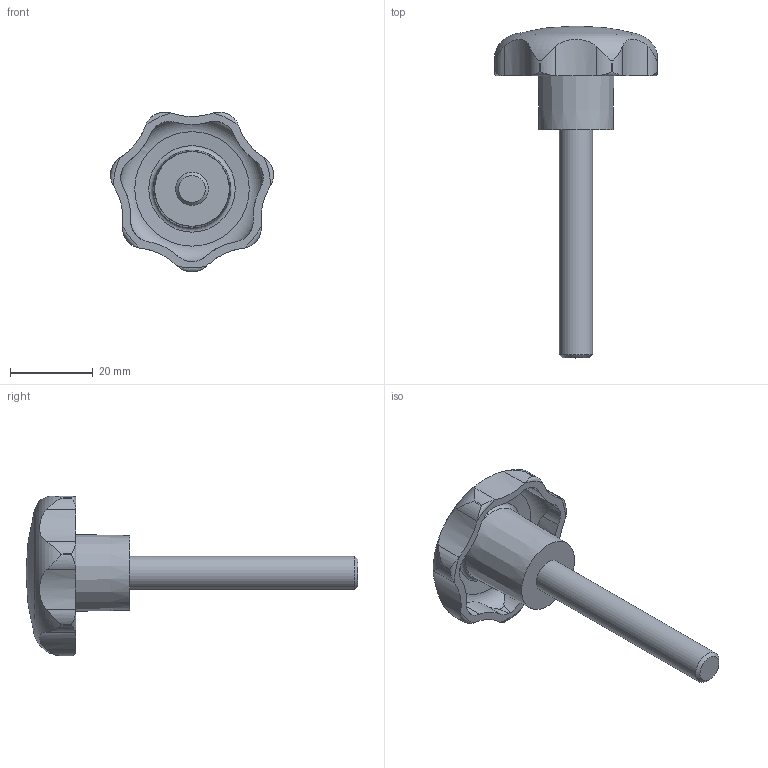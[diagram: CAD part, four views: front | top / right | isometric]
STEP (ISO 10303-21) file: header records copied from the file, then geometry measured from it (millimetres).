
FILE_DESCRIPTION( ( 'STEP AP203' ), '1' );
FILE_NAME( 'C:/Temp/Ganter_Step_05_03_2020/data/2_2/gn_6336_4/gn_6336_4_st/Star knob GN 6336.4-ST-40-M8-55.stp', '2020-03-05T12:07:31', ( 'License CC BY-ND 4.0' ), ( 'CADENAS' ), ' ', 'PARTsolutions', ' ' );
FILE_SCHEMA( ( 'CONFIG_CONTROL_DESIGN' ) );
Length unit declared in the file: millimetre
Products named in the file (1): _Star knob GN 6336.4-ST-40-M8-55
Bounding box: 39.25 x 80 x 38.51 mm (x, y, z)
Volume: 13569.7 mm3; surface area: 6265.8 mm2
Topology: 1 solids, 1 shells, 74 faces, 209 edges, 138 vertices
Faces by surface type: cylinder 43, torus 17, cone 10, plane 3, sphere 1
Full cylindrical faces by diameter (mm): 8 x1
Entity records: 3288 total; most frequent: CARTESIAN_POINT 1437, ORIENTED_EDGE 394, DIRECTION 362, EDGE_CURVE 197, AXIS2_PLACEMENT_3D 160, VERTEX_POINT 135, CIRCLE 85, EDGE_LOOP 83
